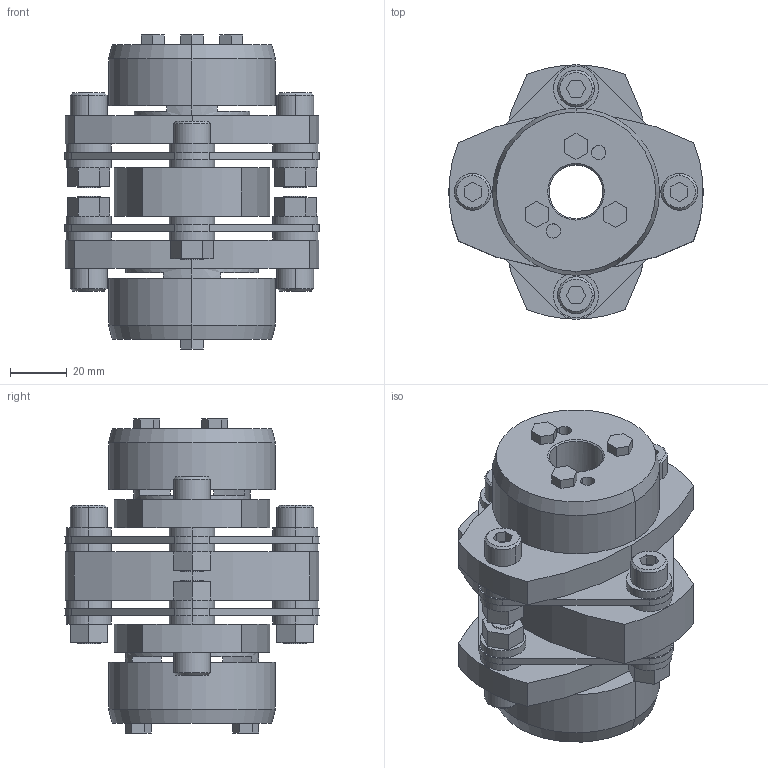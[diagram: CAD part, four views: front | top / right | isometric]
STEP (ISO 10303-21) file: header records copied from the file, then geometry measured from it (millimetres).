
FILE_DESCRIPTION((''),'2;1');
FILE_NAME('LCD-90T7-19×25.stp','2011-09-12T08:22:23',(''),(''),'AutoCAD STEP 2000i','AutoCAD 2000i',', , ');
FILE_SCHEMA(('CONFIG_CONTROL_DESIGN'));
Length unit declared in the file: millimetre
Products named in the file (6): LCD-90T7-19×25; 忣兜1; LC90T7-T025; LC90T7-T019-1; LC90T7-T019; LCD90-ITA
Assembly tree (5 placements, depth 2):
  LCD-90T7-19×25
    忣兜1
    LC90T7-T025
    LC90T7-T019-1
    LC90T7-T019
    LCD90-ITA
Bounding box: 90 x 89.94 x 111 mm (x, y, z)
Volume: 272618.5 mm3; surface area: 73565.7 mm2
Topology: 1 solids, 1 shells, 313 faces, 762 edges, 500 vertices
Faces by surface type: plane 169, cylinder 120, cone 24
Entity records: 9441 total; most frequent: DIRECTION 1680, CARTESIAN_POINT 1581, ORIENTED_EDGE 1524, EDGE_CURVE 762, AXIS2_PLACEMENT_3D 599, VERTEX_POINT 500, VECTOR 482, LINE 482
